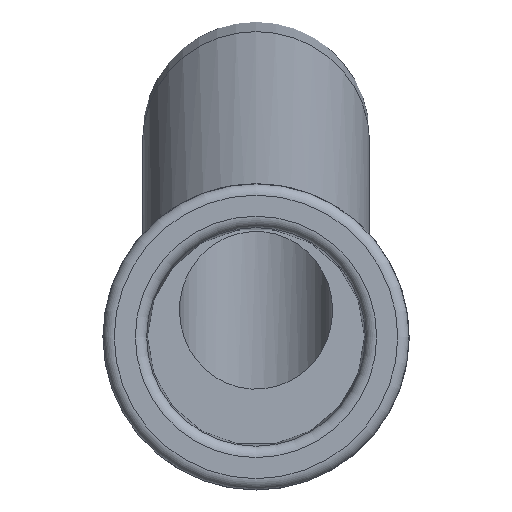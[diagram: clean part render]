
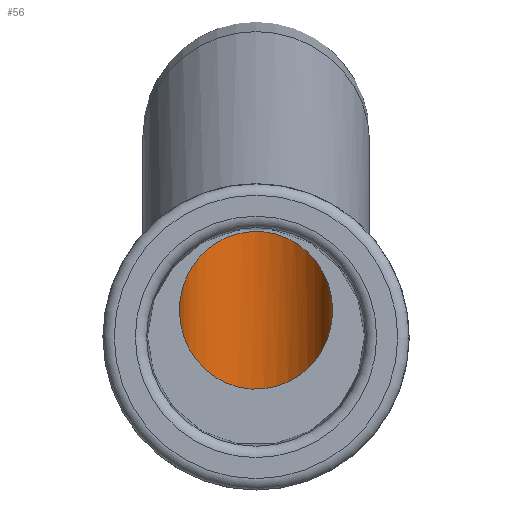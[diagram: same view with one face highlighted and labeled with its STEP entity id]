
A CAD part, front view. The second image highlights one B-rep face of the part: STEP entity #56.
In plain terms, the highlighted cylindrical face has radius 6.75 mm (diameter 13.5 mm), a full revolution.
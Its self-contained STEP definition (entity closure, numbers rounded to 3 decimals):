
#56=ADVANCED_FACE('',(#100,#102),#104,.F.);
#100=FACE_OUTER_BOUND('',#101,.T.);
#101=EDGE_LOOP('',(#255));
#102=FACE_OUTER_BOUND('',#103,.T.);
#103=EDGE_LOOP('',(#256));
#104=CYLINDRICAL_SURFACE('',#105,6.75);
#105=AXIS2_PLACEMENT_3D('',#106,#107,#108);
#106=CARTESIAN_POINT('',(0.,-5.322,17.223));
#107=DIRECTION('',(0.,-0.97,-0.242));
#108=DIRECTION('',(-1.,0.,0.));
#255=ORIENTED_EDGE('',*,*,#306,.F.);
#256=ORIENTED_EDGE('',*,*,#302,.F.);
#302=EDGE_CURVE('',#329,#329,#330,.F.);
#306=EDGE_CURVE('',#337,#337,#338,.T.);
#329=VERTEX_POINT('',#382);
#330=(BOUNDED_CURVE()B_SPLINE_CURVE(3,
(#383,#384,#385,#386,#387,#388,#389),
.UNSPECIFIED.,.T.,.F.)B_SPLINE_CURVE_WITH_KNOTS((4,3,4),
(0.,0.5,1.),
.UNSPECIFIED.)CURVE()GEOMETRIC_REPRESENTATION_ITEM()RATIONAL_B_SPLINE_CURVE((1.,
0.333,0.333,1.,0.333,0.333,1.))
REPRESENTATION_ITEM(''));
#337=VERTEX_POINT('',#405);
#338=CIRCLE('',#406,6.75);
#382=CARTESIAN_POINT('',(-6.75,-65.,2.344));
#383=CARTESIAN_POINT('',(-6.75,-65.,2.344));
#384=CARTESIAN_POINT('',(-6.75,-65.,-11.57));
#385=CARTESIAN_POINT('',(6.75,-65.,-11.57));
#386=CARTESIAN_POINT('',(6.75,-65.,2.344));
#387=CARTESIAN_POINT('',(6.75,-65.,16.257));
#388=CARTESIAN_POINT('',(-6.75,-65.,16.257));
#389=CARTESIAN_POINT('',(-6.75,-65.,2.344));
#405=CARTESIAN_POINT('',(-6.75,-5.322,17.223));
#406=AXIS2_PLACEMENT_3D('',#407,#408,#409);
#407=CARTESIAN_POINT('',(0.,-5.322,17.223));
#408=DIRECTION('',(0.,-0.97,-0.242));
#409=DIRECTION('',(-1.,0.,0.));
